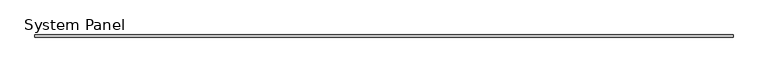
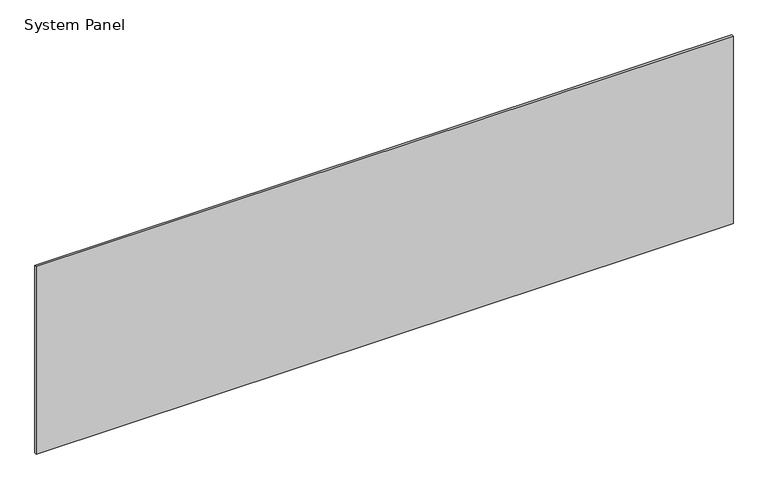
"""IFC4 building model written with IfcOpenShell, lengths in millimetres: plate geometry, System Panel : MALLA ACMA."""

from ifc_helpers import new_model, si_unit, origin, origin_with_axes, place, context, project, spatial, polyline, outline, extrude, source, transform, mapped, element, save


def system_panel_01490582(model_context):
    return source(origin(), model_context, "Body", "SweptSolid", [
        extrude(outline(polyline([(1651.1522824, -5.0), (-1651.1522824, -5.0), (-1651.1522824, 5.0), (1651.1522824, 5.0), (1651.1522824, -5.0)])), origin_with_axes(), (0.0, 0.0, 1.0), 940.0),
    ])


if __name__ == "__main__":
    model = new_model("IFC4")
    model_context = context("Model", 3, world=origin())
    ifc_project = project(units=[si_unit("LENGTHUNIT", "METRE", prefix="MILLI")], contexts=[model_context])
    site = spatial("IfcSite", under=ifc_project)
    building = spatial("IfcBuilding", under=site)
    placement = place(None, origin())
    system_panel_shape = system_panel_01490582(model_context)
    element("IfcPlate", 1, ObjectType="System Panel : MALLA ACMA", at=placement, inside=building, context=model_context, shape_type="MappedRepresentation", body=[
        mapped(system_panel_shape, transform((0.0, 0.0, 0.0), x_axis=(1.0, 0.0, 0.0), y_axis=(0.0, 1.0, 0.0), z_axis=(0.0, 0.0, 1.0))),
    ])
    save(model, "model.ifc")
